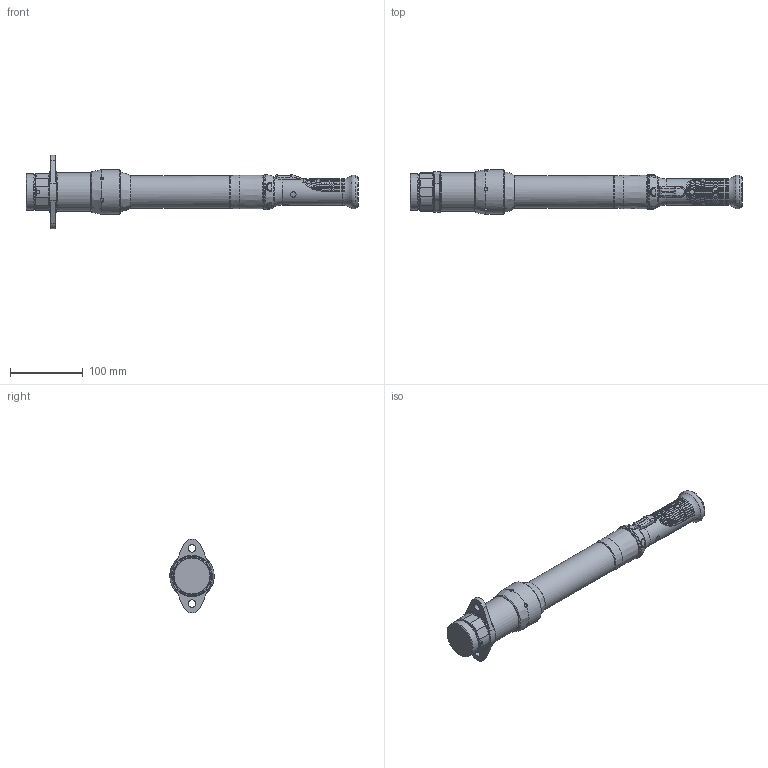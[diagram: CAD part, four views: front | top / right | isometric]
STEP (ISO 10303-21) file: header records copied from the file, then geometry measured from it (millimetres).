
FILE_DESCRIPTION(/* description */ (''),/* implementation_level */ '2;1');
FILE_NAME(/* name */ '10559656_A_SH11_STEP',/* time_stamp */ '2005-11-25T22:55:09+05:00',/* author */ (''),/* organization */ (''),/* preprocessor_version */ 'ST-DEVELOPER v9',/* originating_system */ 'EDS PLM SOLUTIONS - UNIGRAPHICS NX 2.0',/* authorisation */ '');
FILE_SCHEMA (('CONFIG_CONTROL_DESIGN'));
Length unit declared in the file: millimetre
Products named in the file (1): lgb409Bijsg
Bounding box: 456.65 x 61.08 x 101.6 mm (x, y, z)
Volume: 786119.2 mm3; surface area: 77697.8 mm2
Topology: 1 solids, 1 shells, 408 faces, 1012 edges, 648 vertices
Faces by surface type: cylinder 109, cone 95, plane 88, torus 57, bspline 39, extrusion 19, sphere 1
Full cylindrical faces by diameter (mm): 4.826 x1, 4.978 x6, 6.731 x1, 7.62 x2, 10.401 x2, 36.068 x1, 42.426 x1, 42.672 x1, 44.45 x1, 47.219 x1, 48.514 x1, 50.648 x1, 52.349 x1, 52.502 x1, 54.864 x1, 61.087 x1
Entity records: 16860 total; most frequent: CARTESIAN_POINT 8419, ORIENTED_EDGE 1840, DIRECTION 1475, EDGE_CURVE 920, AXIS2_PLACEMENT_3D 657, VERTEX_POINT 616, EDGE_LOOP 498, B_SPLINE_CURVE_WITH_KNOTS 469
